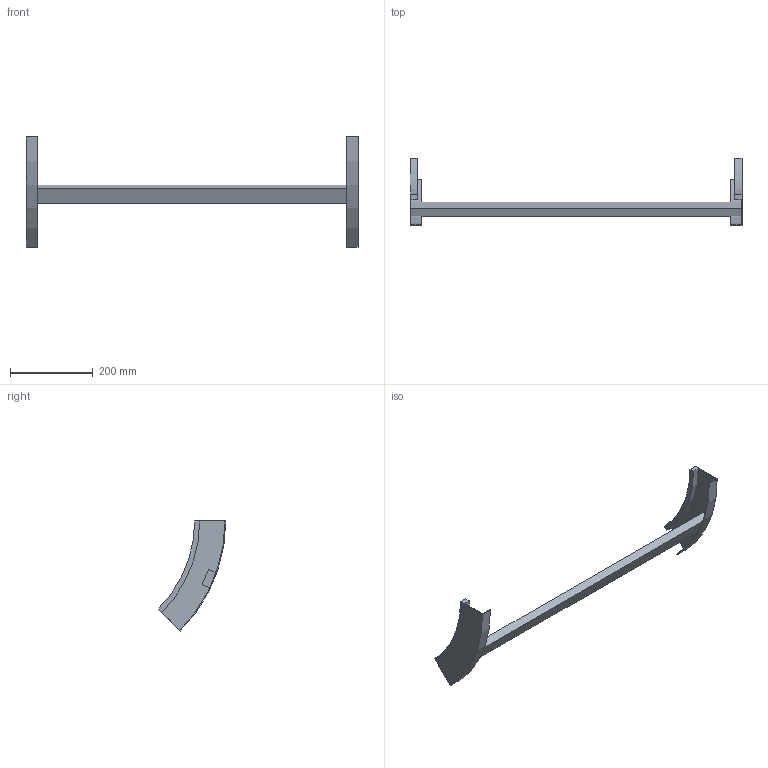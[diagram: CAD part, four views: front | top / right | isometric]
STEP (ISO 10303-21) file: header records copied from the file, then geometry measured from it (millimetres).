
FILE_DESCRIPTION (( 'STEP AP214' ), '1' );
FILE_NAME ('B2X31B3C800XX.step', '2025-03-20T10:10:37', ( '' ), ( '' ), 'SwSTEP 2.0', 'SolidWorks 2023', '' );
FILE_SCHEMA (( 'AUTOMOTIVE_DESIGN' ));
Length unit declared in the file: millimetre
Products named in the file (3): B2X31B3C800XX; B2_LONGH.SALITA_45°_H75_R300; TRAVERSINO_800
Assembly tree (3 placements, depth 2):
  B2X31B3C800XX
    B2_LONGH.SALITA_45°_H75_R300  x2
    TRAVERSINO_800
Bounding box: 800 x 162.87 x 265.17 mm (x, y, z)
Volume: 845942.9 mm3; surface area: 225901.3 mm2
Topology: 3 solids, 3 shells, 26 faces, 60 edges, 40 vertices
Faces by surface type: plane 18, cylinder 8
Entity records: 544 total; most frequent: DIRECTION 88, CARTESIAN_POINT 82, ORIENTED_EDGE 72, EDGE_CURVE 36, AXIS2_PLACEMENT_3D 30, VECTOR 28, LINE 28, VERTEX_POINT 24
